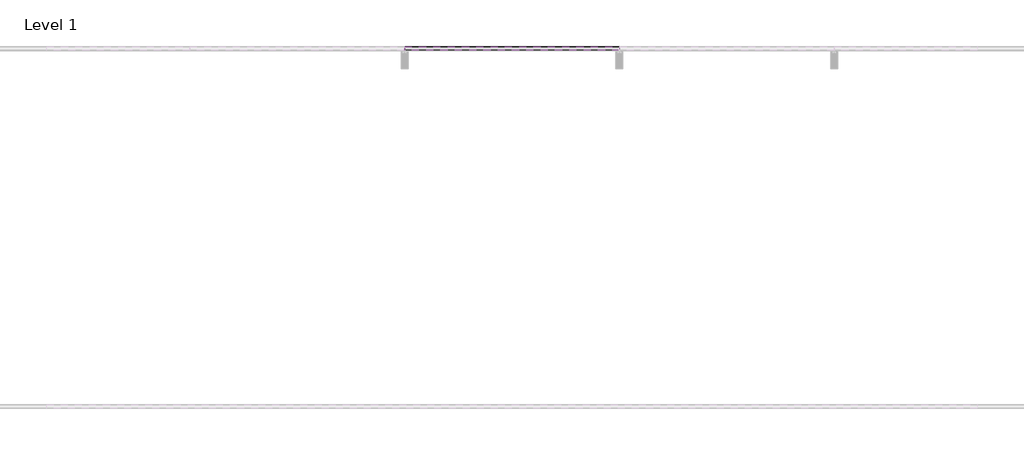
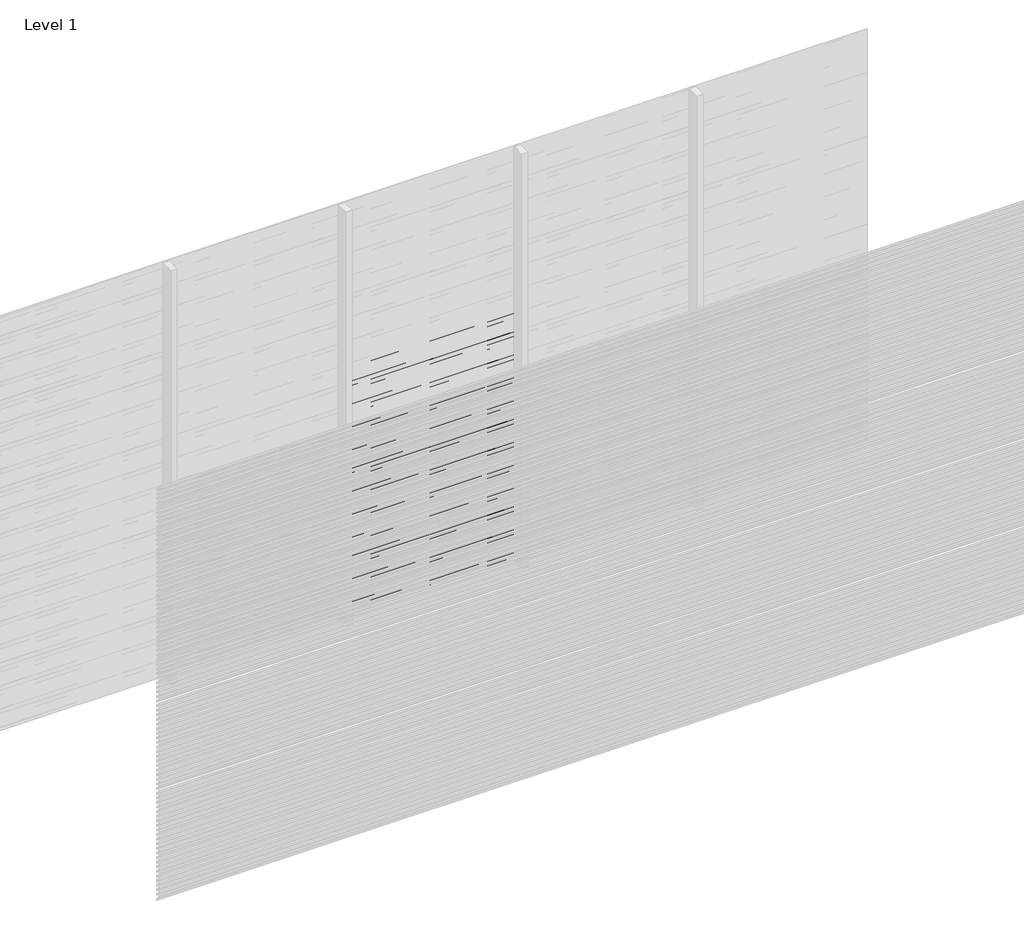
# One storey, part 38 of 507: 54 proxies.
"""IFC4 building model written with IfcOpenShell, lengths in millimetres."""

import ifcopenshell
import ifcopenshell.guid

model = None  # the IFC model being written
_history = None  # IfcOwnerHistory: only IFC2X3 demands one
_inside = {}  # id of a spatial element -> (the spatial element, [elements in it])
_under = {}  # id of a project, library or spatial element -> (it, [spatial elements below it])
_declared = {}  # id of a project -> (the project, [libraries it declares])
_typed = {}  # id of a type object -> (the type object, [elements of that type])
_made_of = {}  # id of a material, layer set ... -> (it, [elements and type objects made of it])


def new_model(schema):
    """Start an empty IFC model of exactly this schema.

    Asked for "IFC4X3", IfcOpenShell would pick the latest addendum, in which some entities
    have other attributes; the version numbers below select the first issue.
    IFC2X3 requires an IfcOwnerHistory on every rooted entity: one is made here for all.
    """
    global model, _history
    if schema == "IFC4X3":
        model = ifcopenshell.file(schema_version=(4, 3, 0, 0))
    else:
        model = ifcopenshell.file(schema=schema)
    _inside.clear()
    _under.clear()
    _declared.clear()
    _typed.clear()
    _made_of.clear()
    _history = None
    if model.schema == "IFC2X3":
        org = make("IfcOrganization", Name="unknown")
        user = make(
            "IfcPersonAndOrganization",
            ThePerson=make("IfcPerson", FamilyName="unknown"),
            TheOrganization=org,
        )
        app = make(
            "IfcApplication",
            ApplicationDeveloper=org,
            Version="unknown",
            ApplicationFullName="unknown",
            ApplicationIdentifier="unknown",
        )
        _history = make(
            "IfcOwnerHistory",
            OwningUser=user,
            OwningApplication=app,
            ChangeAction="ADDED",
            CreationDate=0,
        )
    return model


def make(cls, **values):
    """One entity of the class cls with the attributes given. An attribute that is None is left unset."""
    return model.create_entity(
        cls, **{name: value for name, value in values.items() if value is not None}
    )


def rooted(cls, **values):
    """An entity with a GlobalId (a new one), such as an element, a storey or a relation."""
    return make(cls, GlobalId=ifcopenshell.guid.new(), OwnerHistory=_history, **values)


def si_unit(unit_type, name, prefix=None):
    """IfcSIUnit, for example si_unit("LENGTHUNIT", "METRE", prefix="MILLI")."""
    return make("IfcSIUnit", UnitType=unit_type, Prefix=prefix, Name=name)


def assignment(units):
    """IfcUnitAssignment: the units of a project."""
    return None if units is None else make("IfcUnitAssignment", Units=units)


def point(xyz):
    """IfcCartesianPoint."""
    return None if xyz is None else make("IfcCartesianPoint", Coordinates=xyz)


def direction(xyz):
    """IfcDirection."""
    return None if xyz is None else make("IfcDirection", DirectionRatios=xyz)


def frame(location, z_axis=None, x_axis=None):
    """IfcAxis2Placement3D, a coordinate frame: its origin and axes. An axis left out is left unset."""
    return make(
        "IfcAxis2Placement3D",
        Location=point(location),
        Axis=direction(z_axis),
        RefDirection=direction(x_axis),
    )


def origin():
    """The frame at (0, 0, 0) with its axes left unset."""
    return frame((0.0, 0.0, 0.0))


def place(relative_to, where):
    """IfcLocalPlacement: puts the frame where relative to a parent placement (None: the world)."""
    return make(
        "IfcLocalPlacement", PlacementRelTo=relative_to, RelativePlacement=where
    )


def context(
    kind, dimensions, precision=None, world=None, true_north=None, identifier=None
):
    """IfcGeometricRepresentationContext, for example the 3D "Model" context."""
    return make(
        "IfcGeometricRepresentationContext",
        ContextIdentifier=identifier,
        ContextType=kind,
        CoordinateSpaceDimension=dimensions,
        Precision=precision,
        WorldCoordinateSystem=world,
        TrueNorth=true_north,
    )


def project(units=None, contexts=None):
    """IfcProject with its units and contexts."""
    return rooted(
        "IfcProject",
        Name="project",
        RepresentationContexts=contexts,
        UnitsInContext=assignment(units),
    )


def spatial(cls, under=None, at=None, **own):
    """A site, building, storey or space (cls), placed at a placement, below another one or the project."""
    s = rooted(cls, ObjectPlacement=at, **own)
    if under is not None:
        _under.setdefault(under.id(), (under, []))[1].append(s)
    return s


def polyline(points):
    """IfcPolyline through the points."""
    return make("IfcPolyline", Points=[point(p) for p in points])


def outline(outer, holes=None, kind="AREA"):
    """IfcArbitraryClosedProfileDef: a profile drawn as a closed curve; with holes, ...WithVoids."""
    if holes is None:
        return make("IfcArbitraryClosedProfileDef", ProfileType=kind, OuterCurve=outer)
    return make(
        "IfcArbitraryProfileDefWithVoids",
        ProfileType=kind,
        OuterCurve=outer,
        InnerCurves=holes,
    )


def extrude(swept, where, along, depth):
    """IfcExtrudedAreaSolid: the profile swept, set in the frame where, extruded along a direction by depth."""
    return make(
        "IfcExtrudedAreaSolid",
        SweptArea=swept,
        Position=where,
        ExtrudedDirection=direction(along),
        Depth=depth,
    )


def shape(context_of_items, identifier, shape_type, items):
    """IfcShapeRepresentation: the items that make up one representation, for example the "Body"."""
    return make(
        "IfcShapeRepresentation",
        ContextOfItems=context_of_items,
        RepresentationIdentifier=identifier,
        RepresentationType=shape_type,
        Items=items,
    )


def made_of(thing, what):
    """Note that an element or type object is made of a material, layer set ...; save() writes the relation."""
    if what is not None:
        _made_of.setdefault(what.id(), (what, []))[1].append(thing)
    return thing


def element(
    cls,
    number,
    at=None,
    inside=None,
    cuts=None,
    type_object=None,
    material=None,
    context=None,
    identifier="Body",
    shape_type=None,
    held_by="IfcProductDefinitionShape",
    body=None,
    shapes=None,
    **own,
):
    """One element of the class cls, such as IfcWall. Its Tag is "e" and its number.

    at: its placement. inside: the storey or other place that contains it. cuts: it is an
    opening in that element (IfcRelVoidsElement). A single representation is given by context,
    identifier, shape_type and body (its items); several are given by shapes. held_by: the class
    of the entity that holds the representations. save() writes the other relations.
    """
    e = rooted(cls, Tag="e%d" % number, ObjectPlacement=at, **own)
    if body is not None:
        shapes = [shape(context, identifier, shape_type, body)]
    if shapes is not None:
        e.Representation = make(held_by, Representations=shapes)
    if inside is not None:
        _inside.setdefault(inside.id(), (inside, []))[1].append(e)
    if cuts is not None:
        rooted(
            "IfcRelVoidsElement", RelatingBuildingElement=cuts, RelatedOpeningElement=e
        )
    if type_object is not None:
        _typed.setdefault(type_object.id(), (type_object, []))[1].append(e)
    return made_of(e, material)


def aggregate(whole, parts):
    """IfcRelAggregates: a whole, such as a stair, and the parts it consists of."""
    return rooted("IfcRelAggregates", RelatingObject=whole, RelatedObjects=parts)


def save(model, path):
    """Write the relations noted so far, then the file.

    IfcRelAggregates (storeys below a building ...), IfcRelContainedInSpatialStructure (elements
    in a storey), IfcRelDefinesByType, IfcRelAssociatesMaterial and IfcRelDeclares: one each for
    every whole, place, type object, material and project.
    """
    for whole, parts in _under.values():
        aggregate(whole, parts)
    for where, things in _inside.values():
        rooted(
            "IfcRelContainedInSpatialStructure",
            RelatedElements=things,
            RelatingStructure=where,
        )
    for kind, things in _typed.values():
        rooted("IfcRelDefinesByType", RelatedObjects=things, RelatingType=kind)
    for what, things in _made_of.values():
        rooted("IfcRelAssociatesMaterial", RelatedObjects=things, RelatingMaterial=what)
    for by, libraries in _declared.values():
        rooted("IfcRelDeclares", RelatingContext=by, RelatedDefinitions=libraries)
    model.write(path)


model = new_model("IFC4")

# Units and contexts
model_context = context("Model", 3, world=origin())
ifc_project = project(units=[si_unit("LENGTHUNIT", "METRE", prefix="MILLI")], contexts=[model_context])

# Site, building, storey
site = spatial("IfcSite", under=ifc_project)
building = spatial("IfcBuilding", under=site)
storey = spatial("IfcBuildingStorey", under=building, Name="Level 1", Elevation=0.0)

# Proxies
placement = place(None, origin())
element("IfcBuildingElementProxy", 1, Name="Wall Sweeps", at=placement, inside=storey, context=model_context, shape_type="SweptSolid", body=[
    extrude(outline(polyline([(29003.4540136, 1774.2), (29003.4540136, 1760.7), (29002.2040136, 1761.4216933), (29002.2040136, 1773.4782281), (28983.0540136, 1784.5345698), (28983.0540136, 1798.2), (28984.3040136, 1798.2), (28984.3040136, 1785.2562577), (29003.4540136, 1774.2)])), frame((47366.6208097, 0.0, 0.0), z_axis=(1.0, 0.0, 0.0), x_axis=(0.0, 1.0, 0.0)), (0.0, 0.0, 1.0), 1199.9999999),
])
element("IfcBuildingElementProxy", 2, Name="Wall Sweeps", at=placement, inside=storey, context=model_context, shape_type="SweptSolid", body=[
    extrude(outline(polyline([(29003.4540136, 1740.9), (29003.4540136, 1727.4), (29002.2040136, 1728.1216933), (29002.2040136, 1740.1782281), (28983.0540136, 1751.2345698), (28983.0540136, 1764.9), (28984.3040136, 1764.9), (28984.3040136, 1751.9562577), (29003.4540136, 1740.9)])), frame((47366.6208097, 0.0, 0.0), z_axis=(1.0, 0.0, 0.0), x_axis=(0.0, 1.0, 0.0)), (0.0, 0.0, 1.0), 1199.9999999),
])
element("IfcBuildingElementProxy", 3, Name="Wall Sweeps", at=placement, inside=storey, context=model_context, shape_type="SweptSolid", body=[
    extrude(outline(polyline([(29003.4540136, 1707.6), (29003.4540136, 1694.1), (29002.2040136, 1694.8216933), (29002.2040136, 1706.8782281), (28983.0540136, 1717.9345698), (28983.0540136, 1731.6), (28984.3040136, 1731.6), (28984.3040136, 1718.6562577), (29003.4540136, 1707.6)])), frame((47366.6208097, 0.0, 0.0), z_axis=(1.0, 0.0, 0.0), x_axis=(0.0, 1.0, 0.0)), (0.0, 0.0, 1.0), 1199.9999999),
])
element("IfcBuildingElementProxy", 4, Name="Wall Sweeps", at=placement, inside=storey, context=model_context, shape_type="SweptSolid", body=[
    extrude(outline(polyline([(29003.4540136, 1674.3), (29003.4540136, 1660.8), (29002.2040136, 1661.5216933), (29002.2040136, 1673.5782281), (28983.0540136, 1684.6345698), (28983.0540136, 1698.3), (28984.3040136, 1698.3), (28984.3040136, 1685.3562577), (29003.4540136, 1674.3)])), frame((47366.6208097, 0.0, 0.0), z_axis=(1.0, 0.0, 0.0), x_axis=(0.0, 1.0, 0.0)), (0.0, 0.0, 1.0), 1199.9999999),
])
element("IfcBuildingElementProxy", 5, Name="Wall Sweeps", at=placement, inside=storey, context=model_context, shape_type="SweptSolid", body=[
    extrude(outline(polyline([(29003.4540136, 1641.0), (29003.4540136, 1627.5), (29002.2040136, 1628.2216933), (29002.2040136, 1640.2782281), (28983.0540136, 1651.3345698), (28983.0540136, 1665.0), (28984.3040136, 1665.0), (28984.3040136, 1652.0562577), (29003.4540136, 1641.0)])), frame((47366.6208097, 0.0, 0.0), z_axis=(1.0, 0.0, 0.0), x_axis=(0.0, 1.0, 0.0)), (0.0, 0.0, 1.0), 1199.9999999),
])
element("IfcBuildingElementProxy", 6, Name="Wall Sweeps", at=placement, inside=storey, context=model_context, shape_type="SweptSolid", body=[
    extrude(outline(polyline([(29003.4540136, 1607.7), (29003.4540136, 1594.2), (29002.2040136, 1594.9216933), (29002.2040136, 1606.9782281), (28983.0540136, 1618.0345698), (28983.0540136, 1631.7), (28984.3040136, 1631.7), (28984.3040136, 1618.7562577), (29003.4540136, 1607.7)])), frame((47366.6208097, 0.0, 0.0), z_axis=(1.0, 0.0, 0.0), x_axis=(0.0, 1.0, 0.0)), (0.0, 0.0, 1.0), 1199.9999999),
])
element("IfcBuildingElementProxy", 7, Name="Wall Sweeps", at=placement, inside=storey, context=model_context, shape_type="SweptSolid", body=[
    extrude(outline(polyline([(29003.4540136, 1574.4), (29003.4540136, 1560.9), (29002.2040136, 1561.6216933), (29002.2040136, 1573.6782281), (28983.0540136, 1584.7345698), (28983.0540136, 1598.4), (28984.3040136, 1598.4), (28984.3040136, 1585.4562577), (29003.4540136, 1574.4)])), frame((47366.6208097, 0.0, 0.0), z_axis=(1.0, 0.0, 0.0), x_axis=(0.0, 1.0, 0.0)), (0.0, 0.0, 1.0), 1199.9999999),
])
element("IfcBuildingElementProxy", 8, Name="Wall Sweeps", at=placement, inside=storey, context=model_context, shape_type="SweptSolid", body=[
    extrude(outline(polyline([(29003.4540136, 1541.1), (29003.4540136, 1527.6), (29002.2040136, 1528.3216933), (29002.2040136, 1540.3782281), (28983.0540136, 1551.4345698), (28983.0540136, 1565.1), (28984.3040136, 1565.1), (28984.3040136, 1552.1562577), (29003.4540136, 1541.1)])), frame((47366.6208097, 0.0, 0.0), z_axis=(1.0, 0.0, 0.0), x_axis=(0.0, 1.0, 0.0)), (0.0, 0.0, 1.0), 1199.9999999),
])
element("IfcBuildingElementProxy", 9, Name="Wall Sweeps", at=placement, inside=storey, context=model_context, shape_type="SweptSolid", body=[
    extrude(outline(polyline([(29003.4540136, 1507.8), (29003.4540136, 1494.3), (29002.2040136, 1495.0216933), (29002.2040136, 1507.0782281), (28983.0540136, 1518.1345698), (28983.0540136, 1531.8), (28984.3040136, 1531.8), (28984.3040136, 1518.8562577), (29003.4540136, 1507.8)])), frame((47366.6208097, 0.0, 0.0), z_axis=(1.0, 0.0, 0.0), x_axis=(0.0, 1.0, 0.0)), (0.0, 0.0, 1.0), 1199.9999999),
])
element("IfcBuildingElementProxy", 10, Name="Wall Sweeps", at=placement, inside=storey, context=model_context, shape_type="SweptSolid", body=[
    extrude(outline(polyline([(29003.4540136, 1474.5), (29003.4540136, 1461.0), (29002.2040136, 1461.7216933), (29002.2040136, 1473.7782281), (28983.0540136, 1484.8345698), (28983.0540136, 1498.5), (28984.3040136, 1498.5), (28984.3040136, 1485.5562577), (29003.4540136, 1474.5)])), frame((47366.6208097, 0.0, 0.0), z_axis=(1.0, 0.0, 0.0), x_axis=(0.0, 1.0, 0.0)), (0.0, 0.0, 1.0), 1199.9999999),
])
element("IfcBuildingElementProxy", 11, Name="Wall Sweeps", at=placement, inside=storey, context=model_context, shape_type="SweptSolid", body=[
    extrude(outline(polyline([(29003.4540136, 1441.2), (29003.4540136, 1427.7), (29002.2040136, 1428.4216933), (29002.2040136, 1440.4782281), (28983.0540136, 1451.5345698), (28983.0540136, 1465.2), (28984.3040136, 1465.2), (28984.3040136, 1452.2562577), (29003.4540136, 1441.2)])), frame((47366.6208097, 0.0, 0.0), z_axis=(1.0, 0.0, 0.0), x_axis=(0.0, 1.0, 0.0)), (0.0, 0.0, 1.0), 1199.9999999),
])
element("IfcBuildingElementProxy", 12, Name="Wall Sweeps", at=placement, inside=storey, context=model_context, shape_type="SweptSolid", body=[
    extrude(outline(polyline([(29003.4540136, 1407.9), (29003.4540136, 1394.4), (29002.2040136, 1395.1216933), (29002.2040136, 1407.1782281), (28983.0540136, 1418.2345698), (28983.0540136, 1431.9), (28984.3040136, 1431.9), (28984.3040136, 1418.9562577), (29003.4540136, 1407.9)])), frame((47366.6208097, 0.0, 0.0), z_axis=(1.0, 0.0, 0.0), x_axis=(0.0, 1.0, 0.0)), (0.0, 0.0, 1.0), 1199.9999999),
])
element("IfcBuildingElementProxy", 13, Name="Wall Sweeps", at=placement, inside=storey, context=model_context, shape_type="SweptSolid", body=[
    extrude(outline(polyline([(29003.4540136, 1374.6), (29003.4540136, 1361.1), (29002.2040136, 1361.8216933), (29002.2040136, 1373.8782281), (28983.0540136, 1384.9345698), (28983.0540136, 1398.6), (28984.3040136, 1398.6), (28984.3040136, 1385.6562577), (29003.4540136, 1374.6)])), frame((47366.6208097, 0.0, 0.0), z_axis=(1.0, 0.0, 0.0), x_axis=(0.0, 1.0, 0.0)), (0.0, 0.0, 1.0), 1199.9999999),
])
element("IfcBuildingElementProxy", 14, Name="Wall Sweeps", at=placement, inside=storey, context=model_context, shape_type="SweptSolid", body=[
    extrude(outline(polyline([(29003.4540136, 1341.3), (29003.4540136, 1327.8), (29002.2040136, 1328.5216933), (29002.2040136, 1340.5782281), (28983.0540136, 1351.6345698), (28983.0540136, 1365.3), (28984.3040136, 1365.3), (28984.3040136, 1352.3562577), (29003.4540136, 1341.3)])), frame((47366.6208097, 0.0, 0.0), z_axis=(1.0, 0.0, 0.0), x_axis=(0.0, 1.0, 0.0)), (0.0, 0.0, 1.0), 1199.9999999),
])
element("IfcBuildingElementProxy", 15, Name="Wall Sweeps", at=placement, inside=storey, context=model_context, shape_type="SweptSolid", body=[
    extrude(outline(polyline([(29003.4540136, 1308.0), (29003.4540136, 1294.5), (29002.2040136, 1295.2216933), (29002.2040136, 1307.2782281), (28983.0540136, 1318.3345698), (28983.0540136, 1332.0), (28984.3040136, 1332.0), (28984.3040136, 1319.0562577), (29003.4540136, 1308.0)])), frame((47366.6208097, 0.0, 0.0), z_axis=(1.0, 0.0, 0.0), x_axis=(0.0, 1.0, 0.0)), (0.0, 0.0, 1.0), 1199.9999999),
])
element("IfcBuildingElementProxy", 16, Name="Wall Sweeps", at=placement, inside=storey, context=model_context, shape_type="SweptSolid", body=[
    extrude(outline(polyline([(29003.4540136, 1274.7), (29003.4540136, 1261.2), (29002.2040136, 1261.9216933), (29002.2040136, 1273.9782281), (28983.0540136, 1285.0345698), (28983.0540136, 1298.7), (28984.3040136, 1298.7), (28984.3040136, 1285.7562577), (29003.4540136, 1274.7)])), frame((47366.6208097, 0.0, 0.0), z_axis=(1.0, 0.0, 0.0), x_axis=(0.0, 1.0, 0.0)), (0.0, 0.0, 1.0), 1199.9999999),
])
element("IfcBuildingElementProxy", 17, Name="Wall Sweeps", at=placement, inside=storey, context=model_context, shape_type="SweptSolid", body=[
    extrude(outline(polyline([(29003.4540136, 1241.4), (29003.4540136, 1227.9), (29002.2040136, 1228.6216933), (29002.2040136, 1240.6782281), (28983.0540136, 1251.7345698), (28983.0540136, 1265.4), (28984.3040136, 1265.4), (28984.3040136, 1252.4562577), (29003.4540136, 1241.4)])), frame((47366.6208097, 0.0, 0.0), z_axis=(1.0, 0.0, 0.0), x_axis=(0.0, 1.0, 0.0)), (0.0, 0.0, 1.0), 1199.9999999),
])
element("IfcBuildingElementProxy", 18, Name="Wall Sweeps", at=placement, inside=storey, context=model_context, shape_type="SweptSolid", body=[
    extrude(outline(polyline([(29003.4540136, 1208.1), (29003.4540136, 1194.6), (29002.2040136, 1195.3216933), (29002.2040136, 1207.3782281), (28983.0540136, 1218.4345698), (28983.0540136, 1232.1), (28984.3040136, 1232.1), (28984.3040136, 1219.1562577), (29003.4540136, 1208.1)])), frame((47366.6208097, 0.0, 0.0), z_axis=(1.0, 0.0, 0.0), x_axis=(0.0, 1.0, 0.0)), (0.0, 0.0, 1.0), 1199.9999999),
])
element("IfcBuildingElementProxy", 19, Name="Wall Sweeps", at=placement, inside=storey, context=model_context, shape_type="SweptSolid", body=[
    extrude(outline(polyline([(29003.4540136, 1174.8), (29003.4540136, 1161.3), (29002.2040136, 1162.0216933), (29002.2040136, 1174.0782281), (28983.0540136, 1185.1345698), (28983.0540136, 1198.8), (28984.3040136, 1198.8), (28984.3040136, 1185.8562577), (29003.4540136, 1174.8)])), frame((47366.6208097, 0.0, 0.0), z_axis=(1.0, 0.0, 0.0), x_axis=(0.0, 1.0, 0.0)), (0.0, 0.0, 1.0), 1199.9999999),
])
element("IfcBuildingElementProxy", 20, Name="Wall Sweeps", at=placement, inside=storey, context=model_context, shape_type="SweptSolid", body=[
    extrude(outline(polyline([(29003.4540136, 1141.5), (29003.4540136, 1128.0), (29002.2040136, 1128.7216933), (29002.2040136, 1140.7782281), (28983.0540136, 1151.8345698), (28983.0540136, 1165.5), (28984.3040136, 1165.5), (28984.3040136, 1152.5562577), (29003.4540136, 1141.5)])), frame((47366.6208097, 0.0, 0.0), z_axis=(1.0, 0.0, 0.0), x_axis=(0.0, 1.0, 0.0)), (0.0, 0.0, 1.0), 1199.9999999),
])
element("IfcBuildingElementProxy", 21, Name="Wall Sweeps", at=placement, inside=storey, context=model_context, shape_type="SweptSolid", body=[
    extrude(outline(polyline([(29003.4540136, 1108.2), (29003.4540136, 1094.7), (29002.2040136, 1095.4216933), (29002.2040136, 1107.4782281), (28983.0540136, 1118.5345698), (28983.0540136, 1132.2), (28984.3040136, 1132.2), (28984.3040136, 1119.2562577), (29003.4540136, 1108.2)])), frame((47366.6208097, 0.0, 0.0), z_axis=(1.0, 0.0, 0.0), x_axis=(0.0, 1.0, 0.0)), (0.0, 0.0, 1.0), 1199.9999999),
])
element("IfcBuildingElementProxy", 22, Name="Wall Sweeps", at=placement, inside=storey, context=model_context, shape_type="SweptSolid", body=[
    extrude(outline(polyline([(29003.4540136, 1074.9), (29003.4540136, 1061.4), (29002.2040136, 1062.1216933), (29002.2040136, 1074.1782281), (28983.0540136, 1085.2345698), (28983.0540136, 1098.9), (28984.3040136, 1098.9), (28984.3040136, 1085.9562577), (29003.4540136, 1074.9)])), frame((47366.6208097, 0.0, 0.0), z_axis=(1.0, 0.0, 0.0), x_axis=(0.0, 1.0, 0.0)), (0.0, 0.0, 1.0), 1199.9999999),
])
element("IfcBuildingElementProxy", 23, Name="Wall Sweeps", at=placement, inside=storey, context=model_context, shape_type="SweptSolid", body=[
    extrude(outline(polyline([(29003.4540136, 1041.6), (29003.4540136, 1028.1), (29002.2040136, 1028.8216933), (29002.2040136, 1040.8782281), (28983.0540136, 1051.9345698), (28983.0540136, 1065.6), (28984.3040136, 1065.6), (28984.3040136, 1052.6562577), (29003.4540136, 1041.6)])), frame((47366.6208097, 0.0, 0.0), z_axis=(1.0, 0.0, 0.0), x_axis=(0.0, 1.0, 0.0)), (0.0, 0.0, 1.0), 1199.9999999),
])
element("IfcBuildingElementProxy", 24, Name="Wall Sweeps", at=placement, inside=storey, context=model_context, shape_type="SweptSolid", body=[
    extrude(outline(polyline([(29003.4540136, 1008.3), (29003.4540136, 994.8), (29002.2040136, 995.5216933), (29002.2040136, 1007.5782281), (28983.0540136, 1018.6345698), (28983.0540136, 1032.3), (28984.3040136, 1032.3), (28984.3040136, 1019.3562577), (29003.4540136, 1008.3)])), frame((47366.6208097, 0.0, 0.0), z_axis=(1.0, 0.0, 0.0), x_axis=(0.0, 1.0, 0.0)), (0.0, 0.0, 1.0), 1199.9999999),
])
element("IfcBuildingElementProxy", 25, Name="Wall Sweeps", at=placement, inside=storey, context=model_context, shape_type="SweptSolid", body=[
    extrude(outline(polyline([(29003.4540136, 975.0), (29003.4540136, 961.5), (29002.2040136, 962.2216933), (29002.2040136, 974.2782281), (28983.0540136, 985.3345698), (28983.0540136, 999.0), (28984.3040136, 999.0), (28984.3040136, 986.0562577), (29003.4540136, 975.0)])), frame((47366.6208097, 0.0, 0.0), z_axis=(1.0, 0.0, 0.0), x_axis=(0.0, 1.0, 0.0)), (0.0, 0.0, 1.0), 1199.9999999),
])
element("IfcBuildingElementProxy", 26, Name="Wall Sweeps", at=placement, inside=storey, context=model_context, shape_type="SweptSolid", body=[
    extrude(outline(polyline([(29003.4540136, 941.7), (29003.4540136, 928.2), (29002.2040136, 928.9216933), (29002.2040136, 940.9782281), (28983.0540136, 952.0345698), (28983.0540136, 965.7), (28984.3040136, 965.7), (28984.3040136, 952.7562577), (29003.4540136, 941.7)])), frame((47366.6208097, 0.0, 0.0), z_axis=(1.0, 0.0, 0.0), x_axis=(0.0, 1.0, 0.0)), (0.0, 0.0, 1.0), 1199.9999999),
])
element("IfcBuildingElementProxy", 27, Name="Wall Sweeps", at=placement, inside=storey, context=model_context, shape_type="SweptSolid", body=[
    extrude(outline(polyline([(29003.4540136, 908.4), (29003.4540136, 894.9), (29002.2040136, 895.6216933), (29002.2040136, 907.6782281), (28983.0540136, 918.7345698), (28983.0540136, 932.4), (28984.3040136, 932.4), (28984.3040136, 919.4562577), (29003.4540136, 908.4)])), frame((47366.6208097, 0.0, 0.0), z_axis=(1.0, 0.0, 0.0), x_axis=(0.0, 1.0, 0.0)), (0.0, 0.0, 1.0), 1199.9999999),
])
element("IfcBuildingElementProxy", 28, Name="Wall Sweeps", at=placement, inside=storey, context=model_context, shape_type="SweptSolid", body=[
    extrude(outline(polyline([(29003.4540136, 875.1), (29003.4540136, 861.6), (29002.2040136, 862.3216933), (29002.2040136, 874.3782281), (28983.0540136, 885.4345698), (28983.0540136, 899.1), (28984.3040136, 899.1), (28984.3040136, 886.1562577), (29003.4540136, 875.1)])), frame((47366.6208097, 0.0, 0.0), z_axis=(1.0, 0.0, 0.0), x_axis=(0.0, 1.0, 0.0)), (0.0, 0.0, 1.0), 1199.9999999),
])
element("IfcBuildingElementProxy", 29, Name="Wall Sweeps", at=placement, inside=storey, context=model_context, shape_type="SweptSolid", body=[
    extrude(outline(polyline([(29003.4540136, 841.8), (29003.4540136, 828.3), (29002.2040136, 829.0216933), (29002.2040136, 841.0782281), (28983.0540136, 852.1345698), (28983.0540136, 865.8), (28984.3040136, 865.8), (28984.3040136, 852.8562577), (29003.4540136, 841.8)])), frame((47366.6208097, 0.0, 0.0), z_axis=(1.0, 0.0, 0.0), x_axis=(0.0, 1.0, 0.0)), (0.0, 0.0, 1.0), 1199.9999999),
])
element("IfcBuildingElementProxy", 30, Name="Wall Sweeps", at=placement, inside=storey, context=model_context, shape_type="SweptSolid", body=[
    extrude(outline(polyline([(29003.4540136, 808.5), (29003.4540136, 795.0), (29002.2040136, 795.7216933), (29002.2040136, 807.7782281), (28983.0540136, 818.8345698), (28983.0540136, 832.5), (28984.3040136, 832.5), (28984.3040136, 819.5562577), (29003.4540136, 808.5)])), frame((47366.6208097, 0.0, 0.0), z_axis=(1.0, 0.0, 0.0), x_axis=(0.0, 1.0, 0.0)), (0.0, 0.0, 1.0), 1199.9999999),
])
element("IfcBuildingElementProxy", 31, Name="Wall Sweeps", at=placement, inside=storey, context=model_context, shape_type="SweptSolid", body=[
    extrude(outline(polyline([(29003.4540136, 775.2), (29003.4540136, 761.7), (29002.2040136, 762.4216933), (29002.2040136, 774.4782281), (28983.0540136, 785.5345698), (28983.0540136, 799.2), (28984.3040136, 799.2), (28984.3040136, 786.2562577), (29003.4540136, 775.2)])), frame((47366.6208097, 0.0, 0.0), z_axis=(1.0, 0.0, 0.0), x_axis=(0.0, 1.0, 0.0)), (0.0, 0.0, 1.0), 1199.9999999),
])
element("IfcBuildingElementProxy", 32, Name="Wall Sweeps", at=placement, inside=storey, context=model_context, shape_type="SweptSolid", body=[
    extrude(outline(polyline([(29003.4540136, 741.9), (29003.4540136, 728.4), (29002.2040136, 729.1216933), (29002.2040136, 741.1782281), (28983.0540136, 752.2345698), (28983.0540136, 765.9), (28984.3040136, 765.9), (28984.3040136, 752.9562577), (29003.4540136, 741.9)])), frame((47366.6208097, 0.0, 0.0), z_axis=(1.0, 0.0, 0.0), x_axis=(0.0, 1.0, 0.0)), (0.0, 0.0, 1.0), 1199.9999999),
])
element("IfcBuildingElementProxy", 33, Name="Wall Sweeps", at=placement, inside=storey, context=model_context, shape_type="SweptSolid", body=[
    extrude(outline(polyline([(29003.4540136, 708.6), (29003.4540136, 695.1), (29002.2040136, 695.8216933), (29002.2040136, 707.8782281), (28983.0540136, 718.9345698), (28983.0540136, 732.6), (28984.3040136, 732.6), (28984.3040136, 719.6562577), (29003.4540136, 708.6)])), frame((47366.6208097, 0.0, 0.0), z_axis=(1.0, 0.0, 0.0), x_axis=(0.0, 1.0, 0.0)), (0.0, 0.0, 1.0), 1199.9999999),
])
element("IfcBuildingElementProxy", 34, Name="Wall Sweeps", at=placement, inside=storey, context=model_context, shape_type="SweptSolid", body=[
    extrude(outline(polyline([(29003.4540136, 675.3), (29003.4540136, 661.8), (29002.2040136, 662.5216933), (29002.2040136, 674.5782281), (28983.0540136, 685.6345698), (28983.0540136, 699.3), (28984.3040136, 699.3), (28984.3040136, 686.3562577), (29003.4540136, 675.3)])), frame((47366.6208097, 0.0, 0.0), z_axis=(1.0, 0.0, 0.0), x_axis=(0.0, 1.0, 0.0)), (0.0, 0.0, 1.0), 1199.9999999),
])
element("IfcBuildingElementProxy", 35, Name="Wall Sweeps", at=placement, inside=storey, context=model_context, shape_type="SweptSolid", body=[
    extrude(outline(polyline([(29003.4540136, 642.0), (29003.4540136, 628.5), (29002.2040136, 629.2216933), (29002.2040136, 641.2782281), (28983.0540136, 652.3345698), (28983.0540136, 666.0), (28984.3040136, 666.0), (28984.3040136, 653.0562577), (29003.4540136, 642.0)])), frame((47366.6208097, 0.0, 0.0), z_axis=(1.0, 0.0, 0.0), x_axis=(0.0, 1.0, 0.0)), (0.0, 0.0, 1.0), 1199.9999999),
])
element("IfcBuildingElementProxy", 36, Name="Wall Sweeps", at=placement, inside=storey, context=model_context, shape_type="SweptSolid", body=[
    extrude(outline(polyline([(29003.4540136, 608.7), (29003.4540136, 595.2), (29002.2040136, 595.9216933), (29002.2040136, 607.9782281), (28983.0540136, 619.0345698), (28983.0540136, 632.7), (28984.3040136, 632.7), (28984.3040136, 619.7562577), (29003.4540136, 608.7)])), frame((47366.6208097, 0.0, 0.0), z_axis=(1.0, 0.0, 0.0), x_axis=(0.0, 1.0, 0.0)), (0.0, 0.0, 1.0), 1199.9999999),
])
element("IfcBuildingElementProxy", 37, Name="Wall Sweeps", at=placement, inside=storey, context=model_context, shape_type="SweptSolid", body=[
    extrude(outline(polyline([(29003.4540136, 575.4), (29003.4540136, 561.9), (29002.2040136, 562.6216933), (29002.2040136, 574.6782281), (28983.0540136, 585.7345698), (28983.0540136, 599.4), (28984.3040136, 599.4), (28984.3040136, 586.4562577), (29003.4540136, 575.4)])), frame((47366.6208097, 0.0, 0.0), z_axis=(1.0, 0.0, 0.0), x_axis=(0.0, 1.0, 0.0)), (0.0, 0.0, 1.0), 1199.9999999),
])
element("IfcBuildingElementProxy", 38, Name="Wall Sweeps", at=placement, inside=storey, context=model_context, shape_type="SweptSolid", body=[
    extrude(outline(polyline([(29003.4540136, 542.1), (29003.4540136, 528.6), (29002.2040136, 529.3216933), (29002.2040136, 541.3782281), (28983.0540136, 552.4345698), (28983.0540136, 566.1), (28984.3040136, 566.1), (28984.3040136, 553.1562577), (29003.4540136, 542.1)])), frame((47366.6208097, 0.0, 0.0), z_axis=(1.0, 0.0, 0.0), x_axis=(0.0, 1.0, 0.0)), (0.0, 0.0, 1.0), 1199.9999999),
])
element("IfcBuildingElementProxy", 39, Name="Wall Sweeps", at=placement, inside=storey, context=model_context, shape_type="SweptSolid", body=[
    extrude(outline(polyline([(29003.4540136, 508.8), (29003.4540136, 495.3), (29002.2040136, 496.0216933), (29002.2040136, 508.0782281), (28983.0540136, 519.1345698), (28983.0540136, 532.8), (28984.3040136, 532.8), (28984.3040136, 519.8562577), (29003.4540136, 508.8)])), frame((47366.6208097, 0.0, 0.0), z_axis=(1.0, 0.0, 0.0), x_axis=(0.0, 1.0, 0.0)), (0.0, 0.0, 1.0), 1199.9999999),
])
element("IfcBuildingElementProxy", 40, Name="Wall Sweeps", at=placement, inside=storey, context=model_context, shape_type="SweptSolid", body=[
    extrude(outline(polyline([(29003.4540136, 475.5), (29003.4540136, 462.0), (29002.2040136, 462.7216933), (29002.2040136, 474.7782281), (28983.0540136, 485.8345698), (28983.0540136, 499.5), (28984.3040136, 499.5), (28984.3040136, 486.5562577), (29003.4540136, 475.5)])), frame((47366.6208097, 0.0, 0.0), z_axis=(1.0, 0.0, 0.0), x_axis=(0.0, 1.0, 0.0)), (0.0, 0.0, 1.0), 1199.9999999),
])
element("IfcBuildingElementProxy", 41, Name="Wall Sweeps", at=placement, inside=storey, context=model_context, shape_type="SweptSolid", body=[
    extrude(outline(polyline([(29003.4540136, 442.2), (29003.4540136, 428.7), (29002.2040136, 429.4216933), (29002.2040136, 441.4782281), (28983.0540136, 452.5345698), (28983.0540136, 466.2), (28984.3040136, 466.2), (28984.3040136, 453.2562577), (29003.4540136, 442.2)])), frame((47366.6208097, 0.0, 0.0), z_axis=(1.0, 0.0, 0.0), x_axis=(0.0, 1.0, 0.0)), (0.0, 0.0, 1.0), 1199.9999999),
])
element("IfcBuildingElementProxy", 42, Name="Wall Sweeps", at=placement, inside=storey, context=model_context, shape_type="SweptSolid", body=[
    extrude(outline(polyline([(29003.4540136, 408.9), (29003.4540136, 395.4), (29002.2040136, 396.1216933), (29002.2040136, 408.1782281), (28983.0540136, 419.2345698), (28983.0540136, 432.9), (28984.3040136, 432.9), (28984.3040136, 419.9562577), (29003.4540136, 408.9)])), frame((47366.6208097, 0.0, 0.0), z_axis=(1.0, 0.0, 0.0), x_axis=(0.0, 1.0, 0.0)), (0.0, 0.0, 1.0), 1199.9999999),
])
element("IfcBuildingElementProxy", 43, Name="Wall Sweeps", at=placement, inside=storey, context=model_context, shape_type="SweptSolid", body=[
    extrude(outline(polyline([(29003.4540136, 375.6), (29003.4540136, 362.1), (29002.2040136, 362.8216933), (29002.2040136, 374.8782281), (28983.0540136, 385.9345698), (28983.0540136, 399.6), (28984.3040136, 399.6), (28984.3040136, 386.6562577), (29003.4540136, 375.6)])), frame((47366.6208097, 0.0, 0.0), z_axis=(1.0, 0.0, 0.0), x_axis=(0.0, 1.0, 0.0)), (0.0, 0.0, 1.0), 1199.9999999),
])
element("IfcBuildingElementProxy", 44, Name="Wall Sweeps", at=placement, inside=storey, context=model_context, shape_type="SweptSolid", body=[
    extrude(outline(polyline([(29003.4540136, 342.3), (29003.4540136, 328.8), (29002.2040136, 329.5216933), (29002.2040136, 341.5782281), (28983.0540136, 352.6345698), (28983.0540136, 366.3), (28984.3040136, 366.3), (28984.3040136, 353.3562577), (29003.4540136, 342.3)])), frame((47366.6208097, 0.0, 0.0), z_axis=(1.0, 0.0, 0.0), x_axis=(0.0, 1.0, 0.0)), (0.0, 0.0, 1.0), 1199.9999999),
])
element("IfcBuildingElementProxy", 45, Name="Wall Sweeps", at=placement, inside=storey, context=model_context, shape_type="SweptSolid", body=[
    extrude(outline(polyline([(29003.4540136, 309.0), (29003.4540136, 295.5), (29002.2040136, 296.2216933), (29002.2040136, 308.2782281), (28983.0540136, 319.3345698), (28983.0540136, 333.0), (28984.3040136, 333.0), (28984.3040136, 320.0562577), (29003.4540136, 309.0)])), frame((47366.6208097, 0.0, 0.0), z_axis=(1.0, 0.0, 0.0), x_axis=(0.0, 1.0, 0.0)), (0.0, 0.0, 1.0), 1199.9999999),
])
element("IfcBuildingElementProxy", 46, Name="Wall Sweeps", at=placement, inside=storey, context=model_context, shape_type="SweptSolid", body=[
    extrude(outline(polyline([(29003.4540136, 275.7), (29003.4540136, 262.2), (29002.2040136, 262.9216933), (29002.2040136, 274.9782281), (28983.0540136, 286.0345698), (28983.0540136, 299.7), (28984.3040136, 299.7), (28984.3040136, 286.7562577), (29003.4540136, 275.7)])), frame((47366.6208097, 0.0, 0.0), z_axis=(1.0, 0.0, 0.0), x_axis=(0.0, 1.0, 0.0)), (0.0, 0.0, 1.0), 1199.9999999),
])
element("IfcBuildingElementProxy", 47, Name="Wall Sweeps", at=placement, inside=storey, context=model_context, shape_type="SweptSolid", body=[
    extrude(outline(polyline([(29003.4540136, 242.4), (29003.4540136, 228.9), (29002.2040136, 229.6216933), (29002.2040136, 241.6782281), (28983.0540136, 252.7345698), (28983.0540136, 266.4), (28984.3040136, 266.4), (28984.3040136, 253.4562577), (29003.4540136, 242.4)])), frame((47366.6208097, 0.0, 0.0), z_axis=(1.0, 0.0, 0.0), x_axis=(0.0, 1.0, 0.0)), (0.0, 0.0, 1.0), 1199.9999999),
])
element("IfcBuildingElementProxy", 48, Name="Wall Sweeps", at=placement, inside=storey, context=model_context, shape_type="SweptSolid", body=[
    extrude(outline(polyline([(29003.4540136, 209.1), (29003.4540136, 195.6), (29002.2040136, 196.3216933), (29002.2040136, 208.3782281), (28983.0540136, 219.4345698), (28983.0540136, 233.1), (28984.3040136, 233.1), (28984.3040136, 220.1562577), (29003.4540136, 209.1)])), frame((47366.6208097, 0.0, 0.0), z_axis=(1.0, 0.0, 0.0), x_axis=(0.0, 1.0, 0.0)), (0.0, 0.0, 1.0), 1199.9999999),
])
element("IfcBuildingElementProxy", 49, Name="Wall Sweeps", at=placement, inside=storey, context=model_context, shape_type="SweptSolid", body=[
    extrude(outline(polyline([(29003.4540136, 175.8), (29003.4540136, 162.3), (29002.2040136, 163.0216933), (29002.2040136, 175.0782281), (28983.0540136, 186.1345698), (28983.0540136, 199.8), (28984.3040136, 199.8), (28984.3040136, 186.8562577), (29003.4540136, 175.8)])), frame((47366.6208097, 0.0, 0.0), z_axis=(1.0, 0.0, 0.0), x_axis=(0.0, 1.0, 0.0)), (0.0, 0.0, 1.0), 1199.9999999),
])
element("IfcBuildingElementProxy", 50, Name="Wall Sweeps", at=placement, inside=storey, context=model_context, shape_type="SweptSolid", body=[
    extrude(outline(polyline([(29003.4540136, 142.5), (29003.4540136, 129.0), (29002.2040136, 129.7216933), (29002.2040136, 141.7782281), (28983.0540136, 152.8345698), (28983.0540136, 166.5), (28984.3040136, 166.5), (28984.3040136, 153.5562577), (29003.4540136, 142.5)])), frame((47366.6208097, 0.0, 0.0), z_axis=(1.0, 0.0, 0.0), x_axis=(0.0, 1.0, 0.0)), (0.0, 0.0, 1.0), 1199.9999999),
])
element("IfcBuildingElementProxy", 51, Name="Wall Sweeps", at=placement, inside=storey, context=model_context, shape_type="SweptSolid", body=[
    extrude(outline(polyline([(29003.4540136, 109.2), (29003.4540136, 95.7), (29002.2040136, 96.4216933), (29002.2040136, 108.4782281), (28983.0540136, 119.5345698), (28983.0540136, 133.2), (28984.3040136, 133.2), (28984.3040136, 120.2562577), (29003.4540136, 109.2)])), frame((47366.6208097, 0.0, 0.0), z_axis=(1.0, 0.0, 0.0), x_axis=(0.0, 1.0, 0.0)), (0.0, 0.0, 1.0), 1199.9999999),
])
element("IfcBuildingElementProxy", 52, Name="Wall Sweeps", at=placement, inside=storey, context=model_context, shape_type="SweptSolid", body=[
    extrude(outline(polyline([(29003.4540136, 75.9), (29003.4540136, 62.4), (29002.2040136, 63.1216933), (29002.2040136, 75.1782281), (28983.0540136, 86.2345698), (28983.0540136, 99.9), (28984.3040136, 99.9), (28984.3040136, 86.9562577), (29003.4540136, 75.9)])), frame((47366.6208097, 0.0, 0.0), z_axis=(1.0, 0.0, 0.0), x_axis=(0.0, 1.0, 0.0)), (0.0, 0.0, 1.0), 1199.9999999),
])
element("IfcBuildingElementProxy", 53, Name="Wall Sweeps", at=placement, inside=storey, context=model_context, shape_type="SweptSolid", body=[
    extrude(outline(polyline([(29003.4540136, 42.6), (29003.4540136, 29.1), (29002.2040136, 29.8216933), (29002.2040136, 41.8782281), (28983.0540136, 52.9345698), (28983.0540136, 66.6), (28984.3040136, 66.6), (28984.3040136, 53.6562577), (29003.4540136, 42.6)])), frame((47366.6208097, 0.0, 0.0), z_axis=(1.0, 0.0, 0.0), x_axis=(0.0, 1.0, 0.0)), (0.0, 0.0, 1.0), 1199.9999999),
])
element("IfcBuildingElementProxy", 54, Name="Wall Sweeps", at=placement, inside=storey, context=model_context, shape_type="SweptSolid", body=[
    extrude(outline(polyline([(29003.4540136, 9.3), (29003.4540136, -4.2), (29002.2040136, -3.4783067), (29002.2040136, 8.5782281), (28983.0540136, 19.6345698), (28983.0540136, 33.3), (28984.3040136, 33.3), (28984.3040136, 20.3562577), (29003.4540136, 9.3)])), frame((47366.6208097, 0.0, 0.0), z_axis=(1.0, 0.0, 0.0), x_axis=(0.0, 1.0, 0.0)), (0.0, 0.0, 1.0), 1199.9999999),
])

save(model, "model.ifc")
